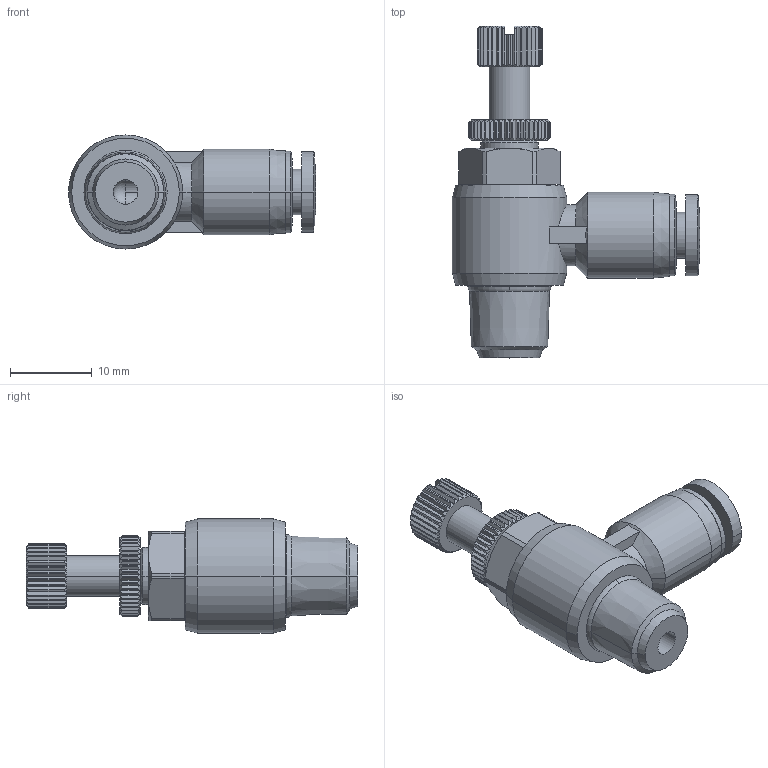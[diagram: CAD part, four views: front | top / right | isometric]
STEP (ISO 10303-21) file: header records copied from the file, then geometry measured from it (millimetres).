
FILE_DESCRIPTION (( 'STEP AP203' ), '1' );
FILE_NAME ('SCL04-01.STEP', '2020-05-12T15:33:07', ( '' ), ( '' ), 'SwSTEP 2.0', 'SolidWorks 2019', '' );
FILE_SCHEMA (( 'CONFIG_CONTROL_DESIGN' ));
Length unit declared in the file: millimetre
Products named in the file (1): SCL04-01
Bounding box: 30.3 x 40.7 x 14 mm (x, y, z)
Volume: 4399.5 mm3; surface area: 2856.6 mm2
Topology: 1 solids, 1 shells, 492 faces, 1099 edges, 620 vertices
Faces by surface type: plane 189, cone 185, cylinder 113, torus 4, sphere 1
Entity records: 13166 total; most frequent: CARTESIAN_POINT 2999, ORIENTED_EDGE 2196, DIRECTION 2167, EDGE_CURVE 1098, AXIS2_PLACEMENT_3D 918, VERTEX_POINT 620, EDGE_LOOP 506, ADVANCED_FACE 492
